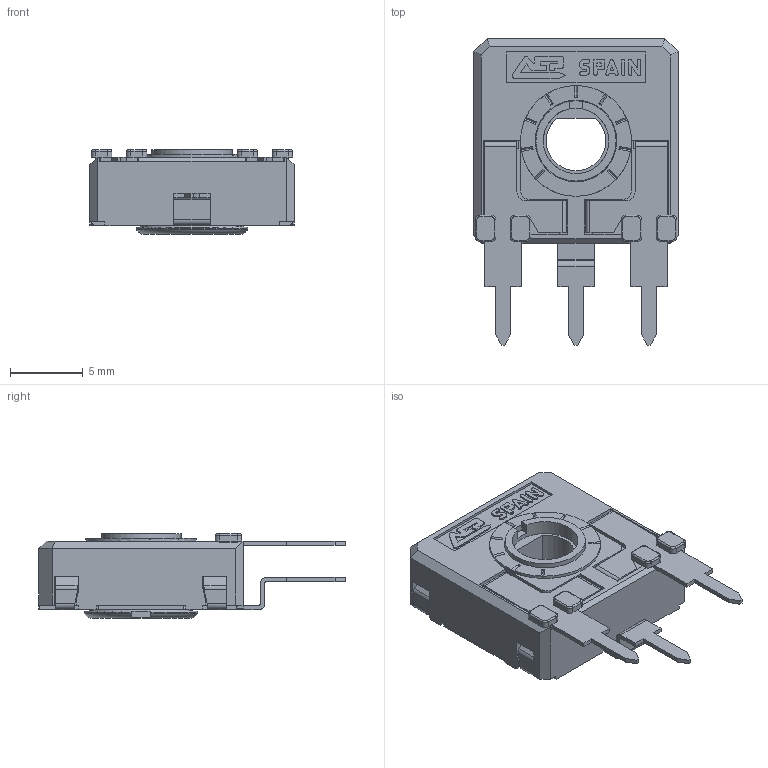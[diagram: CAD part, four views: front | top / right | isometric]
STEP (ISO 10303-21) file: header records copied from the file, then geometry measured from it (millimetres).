
FILE_DESCRIPTION(/* description */ (''),/* implementation_level */ '2;1');
FILE_NAME(/* name */ 'COMCA14DH2,5.stp',/* time_stamp */ '2026-04-01T16:27:54+02:00',/* author */ ('CEM'),/* organization */ (''),/* preprocessor_version */ 'ST-DEVELOPER v20.1',/* originating_system */ 'Autodesk Inventor 2026',/* authorisation */ '');
FILE_SCHEMA (('AUTOMOTIVE_DESIGN { 1 0 10303 214 3 1 1 }'));
Length unit declared in the file: millimetre
Products named in the file (1): CA14NH2,5
Bounding box: 14 x 21 x 5.8 mm (x, y, z)
Volume: 528.6 mm3; surface area: 1460.1 mm2
Topology: 1 solids, 1 shells, 664 faces, 1869 edges, 1201 vertices
Faces by surface type: plane 493, cylinder 134, torus 23, bspline 8, cone 6
Full cylindrical faces by diameter (mm): 4.5 x1, 5.5 x1, 5.6 x1, 5.752 x1, 6.8 x1, 7.6 x1
Entity records: 21626 total; most frequent: CARTESIAN_POINT 4032, ORIENTED_EDGE 3738, DIRECTION 3485, EDGE_CURVE 1869, LINE 1477, VECTOR 1477, VERTEX_POINT 1201, AXIS2_PLACEMENT_3D 1004
